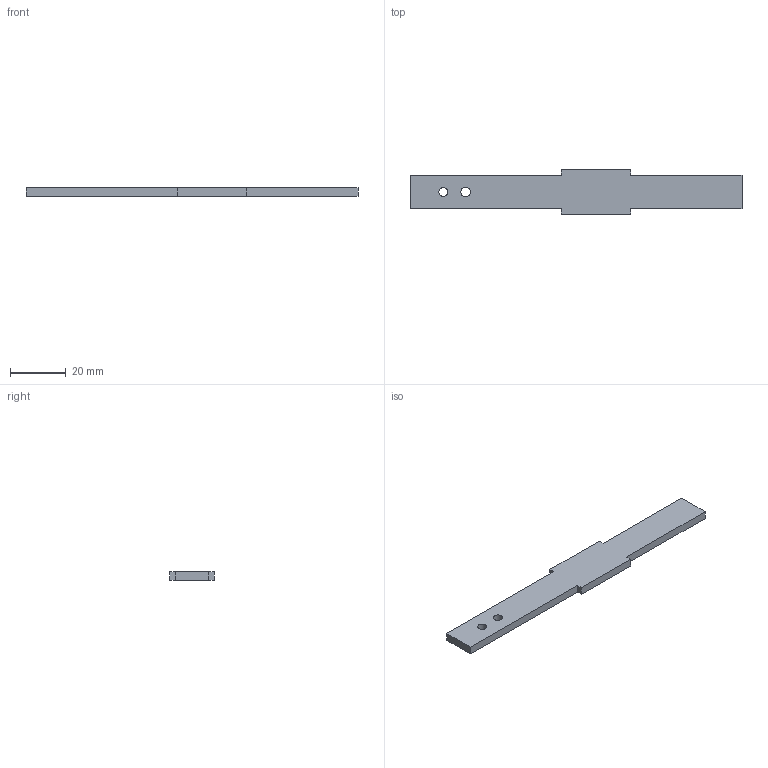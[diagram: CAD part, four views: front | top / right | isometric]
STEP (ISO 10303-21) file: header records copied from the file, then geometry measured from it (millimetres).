
FILE_DESCRIPTION(('Open CASCADE Model'),'2;1');
FILE_NAME('F08-ARM','2026-11-15T22:32:29',('Author'),('Open CASCADE'), 'Open CASCADE STEP processor 8.0','build123d','Unknown');
FILE_SCHEMA(('AUTOMOTIVE_DESIGN { 1 0 10303 214 1 1 1 1 }'));
Length unit declared in the file: millimetre
Products named in the file (1): F08-ARM
Bounding box: 119.5 x 16 x 3 mm (x, y, z)
Volume: 4549.1 mm3; surface area: 3908.9 mm2
Topology: 1 solids, 1 shells, 16 faces, 42 edges, 28 vertices
Faces by surface type: plane 14, cylinder 2
Full cylindrical faces by diameter (mm): 3.3 x1, 3.4 x1
Entity records: 1046 total; most frequent: CARTESIAN_POINT 179, DIRECTION 156, LINE 110, VECTOR 110, ORIENTED_EDGE 84, PCURVE 84, DEFINITIONAL_REPRESENTATION 84, EDGE_CURVE 42
